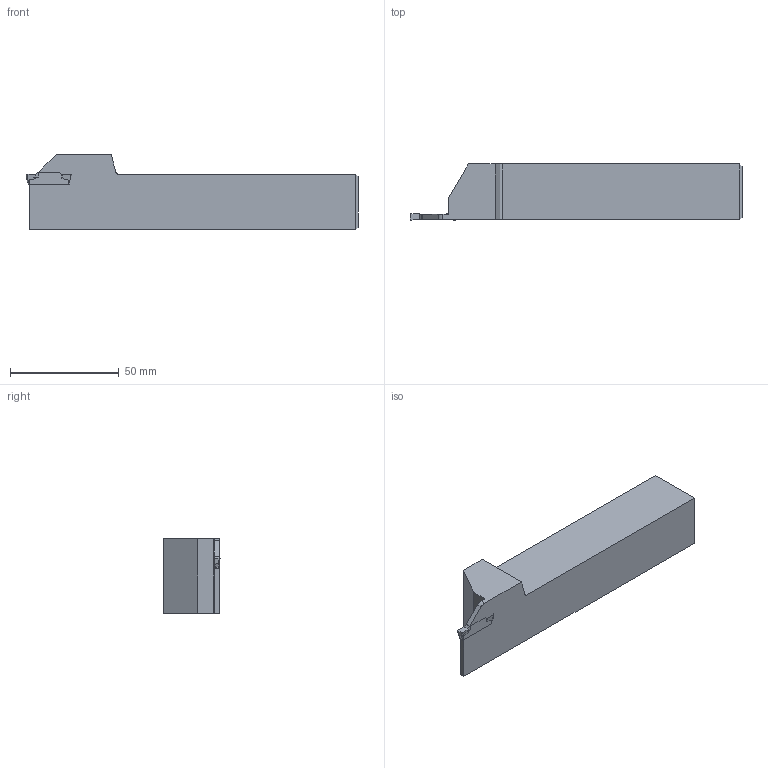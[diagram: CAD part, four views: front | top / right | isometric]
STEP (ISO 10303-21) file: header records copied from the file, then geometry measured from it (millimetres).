
FILE_DESCRIPTION(/* description */ (''),/* implementation_level */ '2;1');
FILE_NAME(/* name */ 'MGEHR16-3-HAAS_20200625.stp',/* time_stamp */ '2020-11-18T16:36:07+09:00',/* author */ (''),/* organization */ (''),/* preprocessor_version */ 'ST-DEVELOPER v11',/* originating_system */ 'SIEMENS UGS NX 6.0',/* authorisation */ '');
FILE_SCHEMA (('CONFIG_CONTROL_DESIGN'));
Length unit declared in the file: millimetre
Products named in the file (1): user1992z9zh
Bounding box: 152.4 x 25.75 x 34.4 mm (x, y, z)
Volume: 90895 mm3; surface area: 16694.2 mm2
Topology: 2 solids, 2 shells, 55 faces, 145 edges, 94 vertices
Faces by surface type: plane 40, cylinder 11, extrusion 4
Entity records: 1819 total; most frequent: CARTESIAN_POINT 365, ORIENTED_EDGE 290, DIRECTION 271, EDGE_CURVE 145, VECTOR 115, LINE 111, VERTEX_POINT 94, AXIS2_PLACEMENT_3D 78
